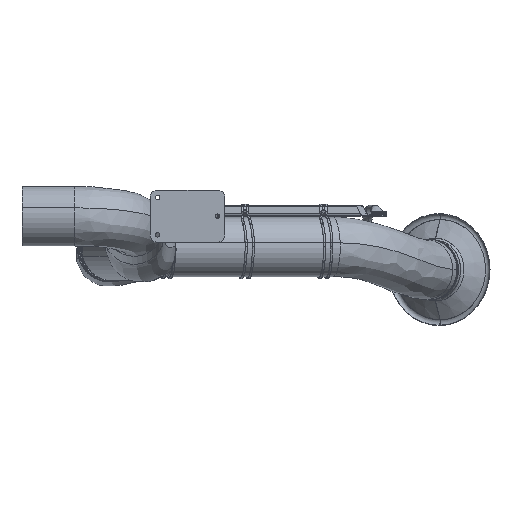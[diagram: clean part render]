
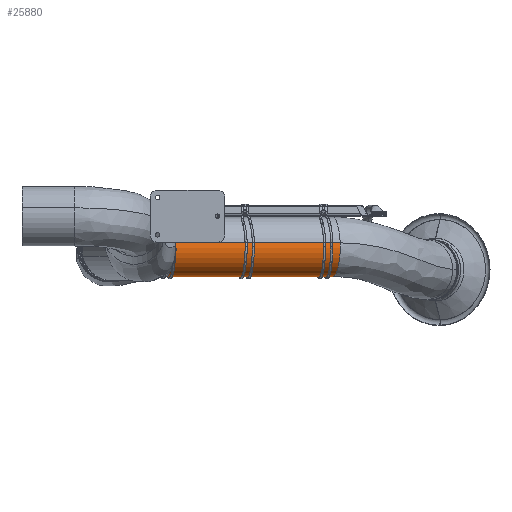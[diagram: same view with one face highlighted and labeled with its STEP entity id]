
A CAD part, left-side view. The second image highlights one B-rep face of the part: STEP entity #25880.
In plain terms, the highlighted free-form (B-spline) face has degree [3, 3] with [7, 6] control points.
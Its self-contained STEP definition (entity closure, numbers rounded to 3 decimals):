
#24810=CARTESIAN_POINT('',(836.616,-417.701,-82.));
#24811=DIRECTION('',(-0.259,0.966,0.));
#24812=DIRECTION('',(0.958,0.257,-0.131));
#24813=AXIS2_PLACEMENT_3D('',#24810,#24811,#24812);
#24818=CARTESIAN_POINT('',(913.228,-397.173,
-92.453));
#24819=CARTESIAN_POINT('',(899.999,-347.803,
-92.453));
#24820=CARTESIAN_POINT('',(873.542,-249.064,
-92.453));
#24821=CARTESIAN_POINT('',(833.856,-100.955,
-92.453));
#24822=CARTESIAN_POINT('',(807.399,-2.216,
-92.453));
#24823=CARTESIAN_POINT('',(794.171,47.153,
-92.453));
#24836=CARTESIAN_POINT('',(760.004,-438.229,
-71.547));
#24837=CARTESIAN_POINT('',(746.776,-388.859,
-71.547));
#24838=CARTESIAN_POINT('',(720.319,-290.12,
-71.547));
#24839=CARTESIAN_POINT('',(680.633,-142.011,
-71.547));
#24840=CARTESIAN_POINT('',(654.176,-43.272,
-71.547));
#24841=CARTESIAN_POINT('',(640.947,6.097,
-71.547));
#24908=CARTESIAN_POINT('',(717.559,26.625,-82.));
#24909=DIRECTION('',(-0.259,0.966,0.));
#24910=DIRECTION('',(0.958,0.257,-0.131));
#24911=AXIS2_PLACEMENT_3D('',#24908,#24909,#24910);
#25373=CARTESIAN_POINT('',(913.228,-397.173,
-92.453));
#25374=CARTESIAN_POINT('',(760.004,-438.229,
-71.547));
#25375=VERTEX_POINT('',#25373);
#25376=VERTEX_POINT('',#25374);
#25377=CARTESIAN_POINT('',(794.171,47.153,
-92.453));
#25378=CARTESIAN_POINT('',(640.947,6.097,
-71.547));
#25379=VERTEX_POINT('',#25377);
#25380=VERTEX_POINT('',#25378);
#25828=CARTESIAN_POINT('',(916.091,-405.93,
-87.452));
#25829=CARTESIAN_POINT('',(915.298,-402.968,
-87.452));
#25830=CARTESIAN_POINT('',(874.818,-251.897,
-87.452));
#25831=CARTESIAN_POINT('',(833.545,-97.864,
-87.452));
#25832=CARTESIAN_POINT('',(793.066,53.207,
-87.452));
#25833=CARTESIAN_POINT('',(792.272,56.169,
-87.452));
#25834=CARTESIAN_POINT('',(912.851,-406.798,
-136.569));
#25835=CARTESIAN_POINT('',(912.057,-403.836,
-136.569));
#25836=CARTESIAN_POINT('',(871.578,-252.765,
-136.569));
#25837=CARTESIAN_POINT('',(830.305,-98.732,
-136.569));
#25838=CARTESIAN_POINT('',(789.825,52.339,
-136.569));
#25839=CARTESIAN_POINT('',(789.032,55.301,
-136.569));
#25840=CARTESIAN_POINT('',(876.047,-416.66,
-167.747));
#25841=CARTESIAN_POINT('',(875.254,-413.697,
-167.747));
#25842=CARTESIAN_POINT('',(834.774,-262.627,
-167.747));
#25843=CARTESIAN_POINT('',(793.501,-108.594,
-167.747));
#25844=CARTESIAN_POINT('',(753.022,42.477,
-167.747));
#25845=CARTESIAN_POINT('',(752.228,45.439,
-167.747));
#25846=CARTESIAN_POINT('',(828.901,-429.293,
-161.314));
#25847=CARTESIAN_POINT('',(828.107,-426.33,
-161.314));
#25848=CARTESIAN_POINT('',(787.628,-275.26,
-161.314));
#25849=CARTESIAN_POINT('',(746.355,-121.227,
-161.314));
#25850=CARTESIAN_POINT('',(705.875,29.844,
-161.314));
#25851=CARTESIAN_POINT('',(705.082,32.806,
-161.314));
#25852=CARTESIAN_POINT('',(781.754,-441.925,
-154.882));
#25853=CARTESIAN_POINT('',(780.96,-438.963,
-154.882));
#25854=CARTESIAN_POINT('',(740.481,-287.892,
-154.882));
#25855=CARTESIAN_POINT('',(699.208,-133.86,
-154.882));
#25856=CARTESIAN_POINT('',(658.729,17.211,
-154.882));
#25857=CARTESIAN_POINT('',(657.935,20.173,
-154.882));
#25858=CARTESIAN_POINT('',(754.009,-449.36,
-114.897));
#25859=CARTESIAN_POINT('',(753.215,-446.397,
-114.897));
#25860=CARTESIAN_POINT('',(712.736,-295.327,
-114.897));
#25861=CARTESIAN_POINT('',(671.463,-141.294,
-114.897));
#25862=CARTESIAN_POINT('',(630.984,9.777,
-114.897));
#25863=CARTESIAN_POINT('',(630.19,12.739,
-114.897));
#25864=CARTESIAN_POINT('',(763.171,-446.905,
-66.588));
#25865=CARTESIAN_POINT('',(762.377,-443.943,
-66.588));
#25866=CARTESIAN_POINT('',(721.898,-292.872,
-66.588));
#25867=CARTESIAN_POINT('',(680.624,-138.839,
-66.588));
#25868=CARTESIAN_POINT('',(640.145,12.232,
-66.588));
#25869=CARTESIAN_POINT('',(639.351,15.194,
-66.588));
#25870=(BOUNDED_SURFACE()B_SPLINE_SURFACE(3,3,((#25828,#25829,#25830,#25831,
#25832,#25833),(#25834,#25835,#25836,#25837,#25838,#25839),(#25840,#25841,
#25842,#25843,#25844,#25845),(#25846,#25847,#25848,#25849,#25850,#25851),
(#25852,#25853,#25854,#25855,#25856,#25857),(#25858,#25859,#25860,#25861,#25862,
#25863),(#25864,#25865,#25866,#25867,#25868,#25869)),.UNSPECIFIED.,.F.,.F.,.F.)B_SPLINE_SURFACE_WITH_KNOTS((4,3,4),(4,1,1,4),(0.,1.,2.),(-0.02,0.,1.,
1.02),.UNSPECIFIED.)GEOMETRIC_REPRESENTATION_ITEM()RATIONAL_B_SPLINE_SURFACE((
(1.187,1.187,1.187,1.187,
1.187,1.187),(0.938,0.938,
0.938,0.938,0.938,0.938),(
0.938,0.938,0.938,0.938,
0.938,0.938),(1.187,1.187,
1.187,1.187,1.187,1.187),(
0.938,0.938,0.938,0.938,
0.938,0.938),(0.938,0.938,
0.938,0.938,0.938,0.938),(
1.187,1.187,1.187,1.187,
1.187,1.187)))REPRESENTATION_ITEM('')SURFACE());
#25871=ORIENTED_EDGE('',*,*,#25815,.F.);
#25873=ORIENTED_EDGE('',*,*,#25872,.T.);
#25875=ORIENTED_EDGE('',*,*,#25874,.T.);
#25877=ORIENTED_EDGE('',*,*,#25876,.F.);
#25878=EDGE_LOOP('',(#25871,#25873,#25875,#25877));
#25879=FACE_OUTER_BOUND('',#25878,.F.);
#24814=CIRCLE('',#24813,80.);
#24824=B_SPLINE_CURVE_WITH_KNOTS('',3,(#24818,#24819,#24820,#24821,#24822,
#24823),.UNSPECIFIED.,.F.,.F.,(4,1,1,4),(0.,0.333,
0.667,1.),.UNSPECIFIED.);
#24842=B_SPLINE_CURVE_WITH_KNOTS('',3,(#24836,#24837,#24838,#24839,#24840,
#24841),.UNSPECIFIED.,.F.,.F.,(4,1,1,4),(0.,0.333,
0.667,1.),.UNSPECIFIED.);
#24912=CIRCLE('',#24911,80.);
#25815=EDGE_CURVE('',#25375,#25376,#24814,.T.);
#25872=EDGE_CURVE('',#25375,#25379,#24824,.T.);
#25874=EDGE_CURVE('',#25379,#25380,#24912,.T.);
#25876=EDGE_CURVE('',#25376,#25380,#24842,.T.);
#25880=ADVANCED_FACE('',(#25879),#25870,.T.);
